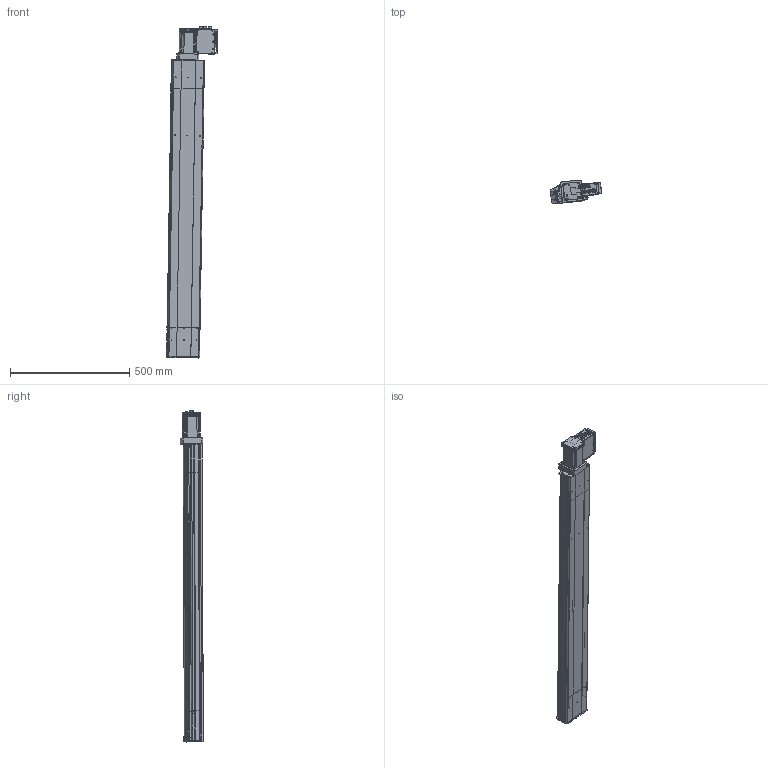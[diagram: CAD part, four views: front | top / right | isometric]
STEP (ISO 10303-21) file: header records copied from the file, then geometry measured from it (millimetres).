
FILE_DESCRIPTION (( 'STEP AP203' ), '1' );
FILE_NAME ('D14 TSH M4 MD L10 S1000.STEP', '2012-10-08T07:56:40', ( '' ), ( '' ), 'SwSTEP 2.0', 'SolidWorks 2010', '' );
FILE_SCHEMA (( 'CONFIG_CONTROL_DESIGN' ));
Length unit declared in the file: millimetre
Products named in the file (22): plaque de  bout head D14 MD_Default_2; Sub D 9cts_2; T犨e fond_2; Connecteur rond D10 3cts_2; Colonnette_2; Moteur 70BLDC90A_2; Pièce1000; Pièce1002; D14 TSH M4 MD L10 S1000; corp head D14_Default_2; Plaque racord D10.2_Default_2; corpl tail D14_Default_2; Moteur_2; T犨e contre le moteur_2; Tôle Arrière_2; Couvercle_2; Tôle latérale_2; Connecteur rond D12 4cts_2; Radiateur_2; Vis TF 3 torkx_2; plaque de  bout tail D14_Default_2; couvercle D14 head_Default_2
Assembly tree (49 placements, depth 3):
  D14 TSH M4 MD L10 S1000
    corpl tail D14_Default_2
    corp head D14_Default_2
    couvercle D14 head_Default_2  x2
    plaque de  bout head D14 MD_Default_2
    Plaque racord D10.2_Default_2
    Moteur_2
      Vis TF 3 torkx_2  x26
      Tôle Arrière_2
      Tôle latérale_2  x2
      T犨e fond_2
      Connecteur rond D12 4cts_2
      Couvercle_2
      Colonnette_2
      T犨e contre le moteur_2
      Connecteur rond D10 3cts_2  x2
      Radiateur_2
      Moteur 70BLDC90A_2
      Sub D 9cts_2
    Pièce1000
    plaque de  bout tail D14_Default_2
    Pièce1002
Bounding box: 215.44 x 97.53 x 1391 mm (x, y, z)
Volume: 4150257.5 mm3; surface area: 1433598.8 mm2
Topology: 70 solids, 70 shells, 2391 faces, 6228 edges, 4107 vertices
Faces by surface type: plane 1275, cylinder 852, cone 134, bspline 130
Entity records: 63974 total; most frequent: CARTESIAN_POINT 20710, ORIENTED_EDGE 8414, DIRECTION 8094, EDGE_CURVE 4207, VERTEX_POINT 2781, VECTOR 2772, LINE 2772, AXIS2_PLACEMENT_3D 2661
